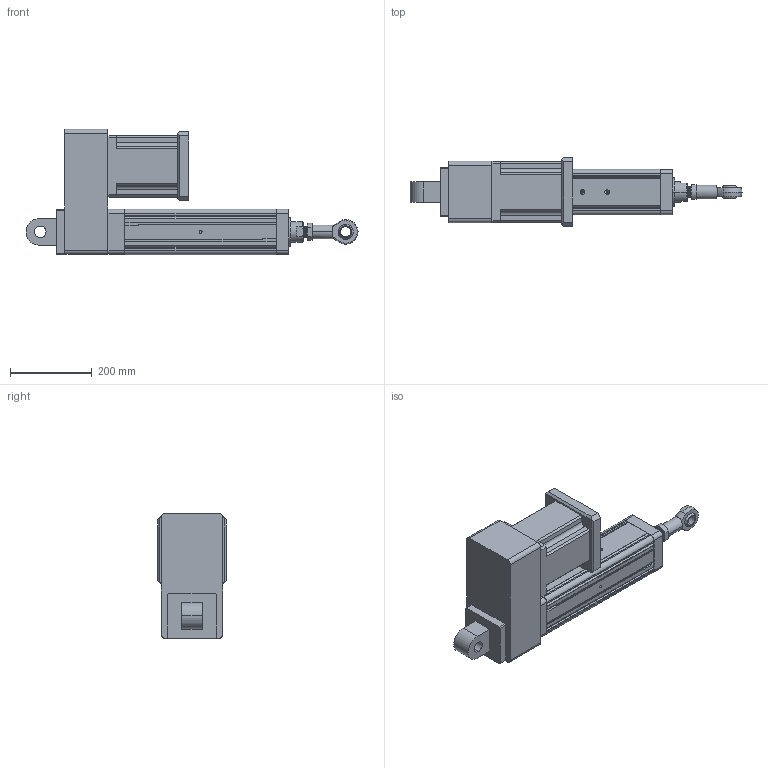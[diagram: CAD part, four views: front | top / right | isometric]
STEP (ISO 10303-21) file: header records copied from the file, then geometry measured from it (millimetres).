
FILE_DESCRIPTION (( 'STEP AP203' ), '1' );
FILE_NAME ('YRJ110-L200-H6K3.STEP', '2020-01-04T07:02:22', ( 'User' ), ( 'China' ), 'SwSTEP 2.0', 'SolidWorks 2016', '' );
FILE_SCHEMA (( 'CONFIG_CONTROL_DESIGN' ));
Length unit declared in the file: millimetre
Products named in the file (12): 萇儂碟-110; K3-110; 142熬厒儂; YRJ110-L200-H6K3; H5-110-1; H6-110; H3-110-2; K1-110; _BNC01-SI25T_K-R-001; _BNC01-SI25T_K-R-002; 095-100俴最倰第; BNC01-SI25T_K-R
Assembly tree (11 placements, depth 4):
  YRJ110-L200-H6K3
    095-100俴最倰第
    萇儂碟-110
    142熬厒儂
    H5-110-1
    H6-110
    H3-110-2
    K3-110
      K1-110
      BNC01-SI25T_K-R
        _BNC01-SI25T_K-R-001
        _BNC01-SI25T_K-R-002
Bounding box: 810 x 168 x 305.5 mm (x, y, z)
Volume: 11891612.3 mm3; surface area: 894477.6 mm2
Topology: 9 solids, 9 shells, 406 faces, 1116 edges, 719 vertices
Faces by surface type: plane 190, cylinder 168, cone 34, bspline 14
Entity records: 23115 total; most frequent: CARTESIAN_POINT 11746, ORIENTED_EDGE 2176, DIRECTION 2031, EDGE_CURVE 1088, VERTEX_POINT 719, AXIS2_PLACEMENT_3D 684, VECTOR 663, LINE 663
